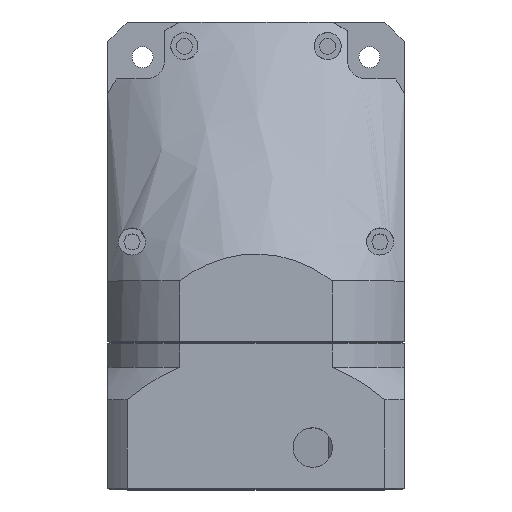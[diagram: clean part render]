
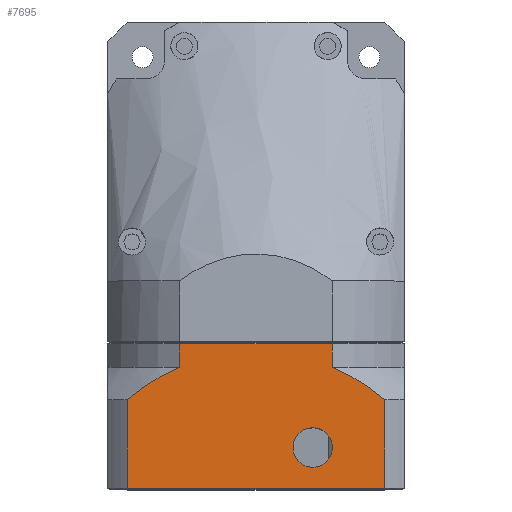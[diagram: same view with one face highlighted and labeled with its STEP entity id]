
A CAD part, top view. The second image highlights one B-rep face of the part: STEP entity #7695.
In plain terms, the highlighted planar face has unit normal (0, 0, 1).
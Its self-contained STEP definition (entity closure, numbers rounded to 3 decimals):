
#83 = DIRECTION ( 'NONE',  ( 0., 1., 0. ) ) ;
#318 = ORIENTED_EDGE ( 'NONE', *, *, #6586, .T. ) ;
#420 = CIRCLE ( 'NONE', #12241, 80. ) ;
#526 = DIRECTION ( 'NONE',  ( 1., 0., 0. ) ) ;
#802 = FACE_BOUND ( 'NONE', #11988, .T. ) ;
#1021 = LINE ( 'NONE', #11158, #7096 ) ;
#1167 = FACE_OUTER_BOUND ( 'NONE', #3299, .T. ) ;
#1403 = DIRECTION ( 'NONE',  ( 1., 0., 0. ) ) ;
#1962 = CARTESIAN_POINT ( 'NONE',  ( 59., -52.156, 60. ) ) ;
#1998 = CARTESIAN_POINT ( 'NONE',  ( 0., 52.156, 60. ) ) ;
#2087 = VERTEX_POINT ( 'NONE', #13006 ) ;
#2203 = CARTESIAN_POINT ( 'NONE',  ( 10., 30.923, 60. ) ) ;
#2371 = AXIS2_PLACEMENT_3D ( 'NONE', #4790, #12763, #5932 ) ;
#2404 = AXIS2_PLACEMENT_3D ( 'NONE', #14177, #7351, #526 ) ;
#2716 = CARTESIAN_POINT ( 'NONE',  ( 0.5, 30.923, 60. ) ) ;
#2923 = LINE ( 'NONE', #4635, #14695 ) ;
#2938 = VERTEX_POINT ( 'NONE', #10135 ) ;
#3060 = ORIENTED_EDGE ( 'NONE', *, *, #5333, .T. ) ;
#3105 = CARTESIAN_POINT ( 'NONE',  ( 0., -52.156, 60. ) ) ;
#3265 = EDGE_CURVE ( 'NONE', #11507, #2087, #5873, .T. ) ;
#3299 = EDGE_LOOP ( 'NONE', ( #13878, #5022, #3060, #8314, #9219, #12783, #6914, #318 ) ) ;
#3600 = DIRECTION ( 'NONE',  ( 0., -1., 0. ) ) ;
#3631 = CIRCLE ( 'NONE', #6378, 80. ) ;
#3668 = VECTOR ( 'NONE', #6596, 1000. ) ;
#4051 = EDGE_CURVE ( 'NONE', #6974, #14368, #1021, .T. ) ;
#4189 = CIRCLE ( 'NONE', #2404, 8. ) ;
#4309 = DIRECTION ( 'NONE',  ( -1., 0., 0. ) ) ;
#4512 = LINE ( 'NONE', #3105, #7203 ) ;
#4635 = CARTESIAN_POINT ( 'NONE',  ( 0.5, -30.923, 60. ) ) ;
#4691 = LINE ( 'NONE', #13739, #13429 ) ;
#4790 = CARTESIAN_POINT ( 'NONE',  ( 42.5, 23., 60. ) ) ;
#4841 = DIRECTION ( 'NONE',  ( 0., 0., 1. ) ) ;
#5022 = ORIENTED_EDGE ( 'NONE', *, *, #9076, .T. ) ;
#5131 = DIRECTION ( 'NONE',  ( 0., 0., 1. ) ) ;
#5333 = EDGE_CURVE ( 'NONE', #6294, #14349, #9741, .T. ) ;
#5512 = CARTESIAN_POINT ( 'NONE',  ( 83.782, 0., 60. ) ) ;
#5607 = EDGE_CURVE ( 'NONE', #2087, #11507, #4189, .T. ) ;
#5873 = CIRCLE ( 'NONE', #2371, 8. ) ;
#5932 = DIRECTION ( 'NONE',  ( 1., 0., 0. ) ) ;
#6046 = EDGE_CURVE ( 'NONE', #14368, #2938, #2923, .T. ) ;
#6134 = CARTESIAN_POINT ( 'NONE',  ( 23.121, -52.156, 60. ) ) ;
#6294 = VERTEX_POINT ( 'NONE', #11269 ) ;
#6378 = AXIS2_PLACEMENT_3D ( 'NONE', #11954, #5131, #13081 ) ;
#6586 = EDGE_CURVE ( 'NONE', #8358, #7773, #3631, .T. ) ;
#6596 = DIRECTION ( 'NONE',  ( -1., 0., 0. ) ) ;
#6632 = DIRECTION ( 'NONE',  ( 1., 0., 0. ) ) ;
#6788 = EDGE_CURVE ( 'NONE', #7773, #11310, #4512, .T. ) ;
#6914 = ORIENTED_EDGE ( 'NONE', *, *, #9012, .T. ) ;
#6974 = VERTEX_POINT ( 'NONE', #2203 ) ;
#7081 = CARTESIAN_POINT ( 'NONE',  ( 0., -30.923, 60. ) ) ;
#7096 = VECTOR ( 'NONE', #4309, 1000. ) ;
#7203 = VECTOR ( 'NONE', #11094, 1000. ) ;
#7351 = DIRECTION ( 'NONE',  ( 0., 0., 1. ) ) ;
#7695 = ADVANCED_FACE ( 'NONE', ( #1167, #802 ), #13920, .T. ) ;
#7773 = VERTEX_POINT ( 'NONE', #6134 ) ;
#8314 = ORIENTED_EDGE ( 'NONE', *, *, #9551, .T. ) ;
#8358 = VERTEX_POINT ( 'NONE', #11434 ) ;
#8383 = CARTESIAN_POINT ( 'NONE',  ( 23.121, 52.156, 60. ) ) ;
#8898 = ORIENTED_EDGE ( 'NONE', *, *, #3265, .F. ) ;
#9012 = EDGE_CURVE ( 'NONE', #2938, #8358, #14157, .T. ) ;
#9076 = EDGE_CURVE ( 'NONE', #11310, #6294, #4691, .T. ) ;
#9219 = ORIENTED_EDGE ( 'NONE', *, *, #4051, .T. ) ;
#9400 = CARTESIAN_POINT ( 'NONE',  ( 0., -60., 60. ) ) ;
#9551 = EDGE_CURVE ( 'NONE', #14349, #6974, #420, .T. ) ;
#9741 = LINE ( 'NONE', #1998, #3668 ) ;
#10135 = CARTESIAN_POINT ( 'NONE',  ( 0.5, -30.923, 60. ) ) ;
#11094 = DIRECTION ( 'NONE',  ( 1., 0., 0. ) ) ;
#11158 = CARTESIAN_POINT ( 'NONE',  ( 0., 30.923, 60. ) ) ;
#11269 = CARTESIAN_POINT ( 'NONE',  ( 59., 52.156, 60. ) ) ;
#11310 = VERTEX_POINT ( 'NONE', #1962 ) ;
#11434 = CARTESIAN_POINT ( 'NONE',  ( 10., -30.923, 60. ) ) ;
#11507 = VERTEX_POINT ( 'NONE', #12484 ) ;
#11954 = CARTESIAN_POINT ( 'NONE',  ( 83.782, 0., 60. ) ) ;
#11988 = EDGE_LOOP ( 'NONE', ( #14354, #8898 ) ) ;
#12241 = AXIS2_PLACEMENT_3D ( 'NONE', #5512, #13471, #6632 ) ;
#12484 = CARTESIAN_POINT ( 'NONE',  ( 34.5, 23., 60. ) ) ;
#12763 = DIRECTION ( 'NONE',  ( 0., 0., 1. ) ) ;
#12783 = ORIENTED_EDGE ( 'NONE', *, *, #6046, .T. ) ;
#12824 = DIRECTION ( 'NONE',  ( 1., 0., 0. ) ) ;
#13006 = CARTESIAN_POINT ( 'NONE',  ( 50.5, 23., 60. ) ) ;
#13081 = DIRECTION ( 'NONE',  ( 1., 0., 0. ) ) ;
#13429 = VECTOR ( 'NONE', #83, 1000. ) ;
#13471 = DIRECTION ( 'NONE',  ( 0., 0., 1. ) ) ;
#13739 = CARTESIAN_POINT ( 'NONE',  ( 59., 52.156, 60. ) ) ;
#13878 = ORIENTED_EDGE ( 'NONE', *, *, #6788, .T. ) ;
#13920 = PLANE ( 'NONE',  #14686 ) ;
#14157 = LINE ( 'NONE', #7081, #14503 ) ;
#14177 = CARTESIAN_POINT ( 'NONE',  ( 42.5, 23., 60. ) ) ;
#14349 = VERTEX_POINT ( 'NONE', #8383 ) ;
#14354 = ORIENTED_EDGE ( 'NONE', *, *, #5607, .F. ) ;
#14368 = VERTEX_POINT ( 'NONE', #2716 ) ;
#14503 = VECTOR ( 'NONE', #1403, 1000. ) ;
#14686 = AXIS2_PLACEMENT_3D ( 'NONE', #9400, #4841, #12824 ) ;
#14695 = VECTOR ( 'NONE', #3600, 1000. ) ;
